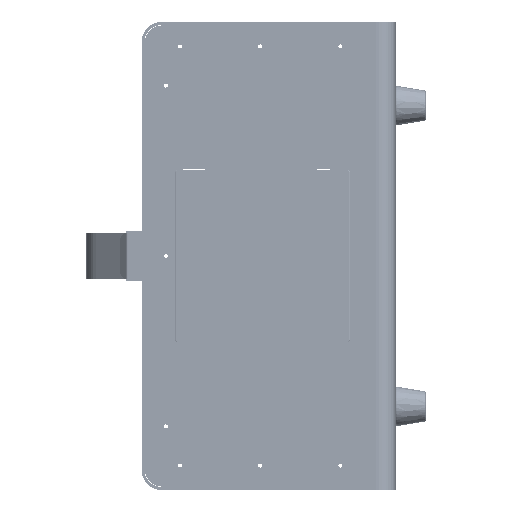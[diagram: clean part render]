
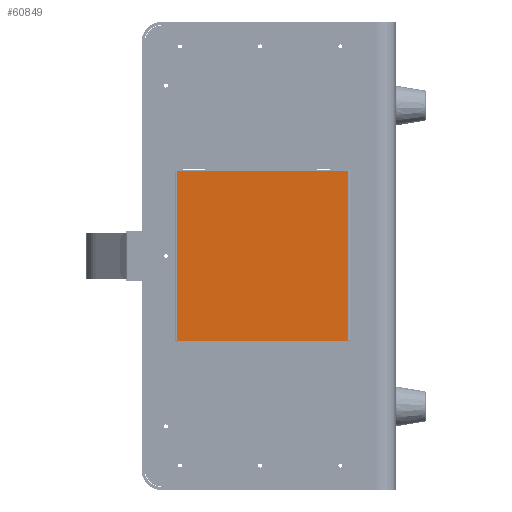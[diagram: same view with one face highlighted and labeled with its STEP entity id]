
A CAD part, left-side view. The second image highlights one B-rep face of the part: STEP entity #60849.
In plain terms, the highlighted planar face has unit normal (-1, 0, 0) as drawn and (0, 1, 0) by its records, which use the part's own axes.
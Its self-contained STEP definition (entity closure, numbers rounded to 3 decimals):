
#764 = LINE ( 'NONE', #111015, #243301 ) ;
#2392 = DIRECTION ( 'NONE',  ( 1., 0., 0. ) ) ;
#11097 = CIRCLE ( 'NONE', #73516, 0.5 ) ;
#14208 = CARTESIAN_POINT ( 'NONE',  ( -41.7, 1.55, -43.5 ) ) ;
#21330 = AXIS2_PLACEMENT_3D ( 'NONE', #87570, #88945, #2392 ) ;
#30830 = CARTESIAN_POINT ( 'NONE',  ( -42.2, 1.55, 41.1 ) ) ;
#33643 = EDGE_CURVE ( 'NONE', #91346, #109550, #11097, .T. ) ;
#39475 = VERTEX_POINT ( 'NONE', #218239 ) ;
#41609 = CARTESIAN_POINT ( 'NONE',  ( -41.7, 1.55, -44. ) ) ;
#51239 = VERTEX_POINT ( 'NONE', #219892 ) ;
#60849 = ADVANCED_FACE ( 'NONE', ( #158170 ), #152598, .F. ) ;
#66043 = EDGE_CURVE ( 'NONE', #51239, #250179, #141709, .T. ) ;
#73516 = AXIS2_PLACEMENT_3D ( 'NONE', #14208, #271005, #99376 ) ;
#81722 = ORIENTED_EDGE ( 'NONE', *, *, #156147, .T. ) ;
#82926 = CARTESIAN_POINT ( 'NONE',  ( 41.7, 1.55, 41.6 ) ) ;
#87298 = DIRECTION ( 'NONE',  ( 0., 0., -1. ) ) ;
#87570 = CARTESIAN_POINT ( 'NONE',  ( 41.7, 1.55, 41.1 ) ) ;
#88945 = DIRECTION ( 'NONE',  ( 0., -1., 0. ) ) ;
#91346 = VERTEX_POINT ( 'NONE', #227940 ) ;
#92697 = CARTESIAN_POINT ( 'NONE',  ( -42.2, 1.55, -43.5 ) ) ;
#98930 = DIRECTION ( 'NONE',  ( 0., -1., 0. ) ) ;
#99376 = DIRECTION ( 'NONE',  ( -1., 0., 0. ) ) ;
#100289 = DIRECTION ( 'NONE',  ( 0., 0., -1. ) ) ;
#103060 = CARTESIAN_POINT ( 'NONE',  ( 41.7, 1.55, -43.5 ) ) ;
#109550 = VERTEX_POINT ( 'NONE', #41609 ) ;
#109587 = CARTESIAN_POINT ( 'NONE',  ( 42.2, 1.55, -43.5 ) ) ;
#111015 = CARTESIAN_POINT ( 'NONE',  ( 42.2, 1.55, 41.1 ) ) ;
#112164 = CIRCLE ( 'NONE', #134476, 0.5 ) ;
#113518 = ORIENTED_EDGE ( 'NONE', *, *, #33643, .F. ) ;
#121977 = CARTESIAN_POINT ( 'NONE',  ( -41.7, 1.55, 41.6 ) ) ;
#130395 = ORIENTED_EDGE ( 'NONE', *, *, #254683, .F. ) ;
#130666 = VERTEX_POINT ( 'NONE', #109587 ) ;
#134476 = AXIS2_PLACEMENT_3D ( 'NONE', #167970, #253119, #233468 ) ;
#136120 = EDGE_CURVE ( 'NONE', #39475, #130666, #156035, .T. ) ;
#138982 = VECTOR ( 'NONE', #234919, 1000. ) ;
#141709 = CIRCLE ( 'NONE', #21330, 0.5 ) ;
#143494 = ORIENTED_EDGE ( 'NONE', *, *, #232242, .F. ) ;
#149596 = EDGE_LOOP ( 'NONE', ( #170472, #270301, #143494, #156107, #81722, #150510, #130395, #113518 ) ) ;
#150510 = ORIENTED_EDGE ( 'NONE', *, *, #136120, .F. ) ;
#152598 = PLANE ( 'NONE',  #268448 ) ;
#154002 = DIRECTION ( 'NONE',  ( 0., 0., -1. ) ) ;
#155421 = CARTESIAN_POINT ( 'NONE',  ( 0., 1.55, -0.6 ) ) ;
#156035 = CIRCLE ( 'NONE', #249642, 0.5 ) ;
#156107 = ORIENTED_EDGE ( 'NONE', *, *, #66043, .F. ) ;
#156147 = EDGE_CURVE ( 'NONE', #51239, #130666, #764, .T. ) ;
#158170 = FACE_OUTER_BOUND ( 'NONE', #149596, .T. ) ;
#160854 = EDGE_CURVE ( 'NONE', #231101, #166985, #112164, .T. ) ;
#166985 = VERTEX_POINT ( 'NONE', #30830 ) ;
#167970 = CARTESIAN_POINT ( 'NONE',  ( -41.7, 1.55, 41.1 ) ) ;
#170472 = ORIENTED_EDGE ( 'NONE', *, *, #206266, .T. ) ;
#174980 = LINE ( 'NONE', #92697, #228198 ) ;
#177776 = DIRECTION ( 'NONE',  ( 0., 0., 1. ) ) ;
#192183 = LINE ( 'NONE', #217276, #205341 ) ;
#205341 = VECTOR ( 'NONE', #218661, 1000. ) ;
#206266 = EDGE_CURVE ( 'NONE', #91346, #166985, #174980, .T. ) ;
#217276 = CARTESIAN_POINT ( 'NONE',  ( -41.7, 1.55, -44. ) ) ;
#218190 = DIRECTION ( 'NONE',  ( 0., -1., 0. ) ) ;
#218239 = CARTESIAN_POINT ( 'NONE',  ( 41.7, 1.55, -44. ) ) ;
#218661 = DIRECTION ( 'NONE',  ( 1., 0., 0. ) ) ;
#219892 = CARTESIAN_POINT ( 'NONE',  ( 42.2, 1.55, 41.1 ) ) ;
#227940 = CARTESIAN_POINT ( 'NONE',  ( -42.2, 1.55, -43.5 ) ) ;
#228198 = VECTOR ( 'NONE', #177776, 1000. ) ;
#231101 = VERTEX_POINT ( 'NONE', #121977 ) ;
#232242 = EDGE_CURVE ( 'NONE', #250179, #231101, #274090, .T. ) ;
#233468 = DIRECTION ( 'NONE',  ( 0., 0., 1. ) ) ;
#234919 = DIRECTION ( 'NONE',  ( -1., 0., 0. ) ) ;
#243301 = VECTOR ( 'NONE', #87298, 1000. ) ;
#249642 = AXIS2_PLACEMENT_3D ( 'NONE', #103060, #98930, #100289 ) ;
#250179 = VERTEX_POINT ( 'NONE', #268142 ) ;
#253119 = DIRECTION ( 'NONE',  ( 0., -1., 0. ) ) ;
#254683 = EDGE_CURVE ( 'NONE', #109550, #39475, #192183, .T. ) ;
#268142 = CARTESIAN_POINT ( 'NONE',  ( 41.7, 1.55, 41.6 ) ) ;
#268448 = AXIS2_PLACEMENT_3D ( 'NONE', #155421, #218190, #154002 ) ;
#270301 = ORIENTED_EDGE ( 'NONE', *, *, #160854, .F. ) ;
#271005 = DIRECTION ( 'NONE',  ( 0., -1., 0. ) ) ;
#274090 = LINE ( 'NONE', #82926, #138982 ) ;
